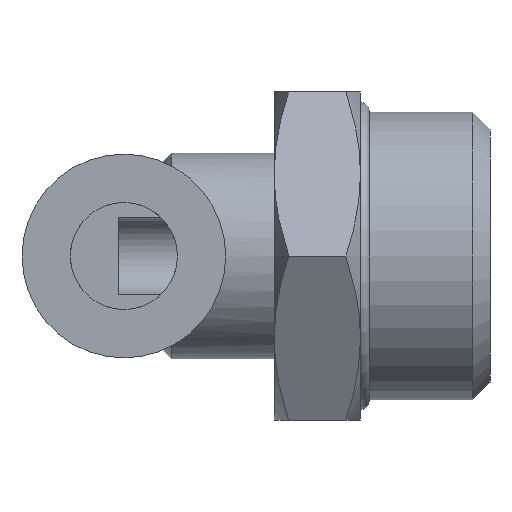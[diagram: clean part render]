
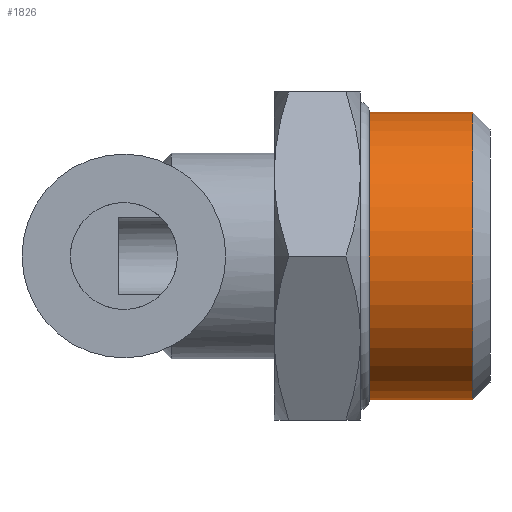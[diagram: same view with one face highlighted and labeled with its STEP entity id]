
A CAD part, left-side view. The second image highlights one B-rep face of the part: STEP entity #1826.
In plain terms, the highlighted cylindrical face has radius 8.33 mm (diameter 16.66 mm), a partial arc.
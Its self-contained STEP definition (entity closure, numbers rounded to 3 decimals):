
#3 = EDGE_CURVE ( 'NONE', #171, #1524, #945, .T. ) ;
#4 = VERTEX_POINT ( 'NONE', #217 ) ;
#68 = DIRECTION ( 'NONE',  ( 0., -1., 0. ) ) ;
#157 = ORIENTED_EDGE ( 'NONE', *, *, #356, .T. ) ;
#171 = VERTEX_POINT ( 'NONE', #1728 ) ;
#198 = CARTESIAN_POINT ( 'NONE',  ( 0., 7.5, 8.33 ) ) ;
#217 = CARTESIAN_POINT ( 'NONE',  ( 0., 7.005, 8.33 ) ) ;
#342 = AXIS2_PLACEMENT_3D ( 'NONE', #1346, #68, #630 ) ;
#356 = EDGE_CURVE ( 'NONE', #4, #574, #1009, .T. ) ;
#429 = CARTESIAN_POINT ( 'NONE',  ( 0., 7.005, -8.33 ) ) ;
#430 = DIRECTION ( 'NONE',  ( 0., -1., 0. ) ) ;
#521 = DIRECTION ( 'NONE',  ( 0., 1., 0. ) ) ;
#550 = FACE_OUTER_BOUND ( 'NONE', #1119, .T. ) ;
#560 = DIRECTION ( 'NONE',  ( 0., 0., -1. ) ) ;
#574 = VERTEX_POINT ( 'NONE', #429 ) ;
#599 = EDGE_CURVE ( 'NONE', #574, #171, #1589, .T. ) ;
#621 = CARTESIAN_POINT ( 'NONE',  ( 0., 1., 8.33 ) ) ;
#630 = DIRECTION ( 'NONE',  ( 0., 0., -1. ) ) ;
#737 = DIRECTION ( 'NONE',  ( 0., -1., 0. ) ) ;
#772 = ORIENTED_EDGE ( 'NONE', *, *, #3, .T. ) ;
#814 = DIRECTION ( 'NONE',  ( 0., 0., 1. ) ) ;
#867 = CYLINDRICAL_SURFACE ( 'NONE', #1335, 8.33 ) ;
#885 = VECTOR ( 'NONE', #737, 1000. ) ;
#945 = CIRCLE ( 'NONE', #1573, 8.33 ) ;
#1009 = CIRCLE ( 'NONE', #342, 8.33 ) ;
#1016 = ORIENTED_EDGE ( 'NONE', *, *, #599, .T. ) ;
#1119 = EDGE_LOOP ( 'NONE', ( #1190, #157, #1016, #772 ) ) ;
#1131 = CARTESIAN_POINT ( 'NONE',  ( 0., 7.5, -8.33 ) ) ;
#1164 = CARTESIAN_POINT ( 'NONE',  ( 0., 7.5, 0. ) ) ;
#1190 = ORIENTED_EDGE ( 'NONE', *, *, #1510, .F. ) ;
#1259 = CARTESIAN_POINT ( 'NONE',  ( 0., 1., 0. ) ) ;
#1286 = DIRECTION ( 'NONE',  ( 0., -1., 0. ) ) ;
#1335 = AXIS2_PLACEMENT_3D ( 'NONE', #1164, #430, #560 ) ;
#1346 = CARTESIAN_POINT ( 'NONE',  ( 0., 7.005, 0. ) ) ;
#1482 = LINE ( 'NONE', #198, #885 ) ;
#1510 = EDGE_CURVE ( 'NONE', #4, #1524, #1482, .T. ) ;
#1524 = VERTEX_POINT ( 'NONE', #621 ) ;
#1573 = AXIS2_PLACEMENT_3D ( 'NONE', #1259, #521, #814 ) ;
#1589 = LINE ( 'NONE', #1131, #1814 ) ;
#1728 = CARTESIAN_POINT ( 'NONE',  ( 0., 1., -8.33 ) ) ;
#1814 = VECTOR ( 'NONE', #1286, 1000. ) ;
#1826 = ADVANCED_FACE ( 'NONE', ( #550 ), #867, .T. ) ;
